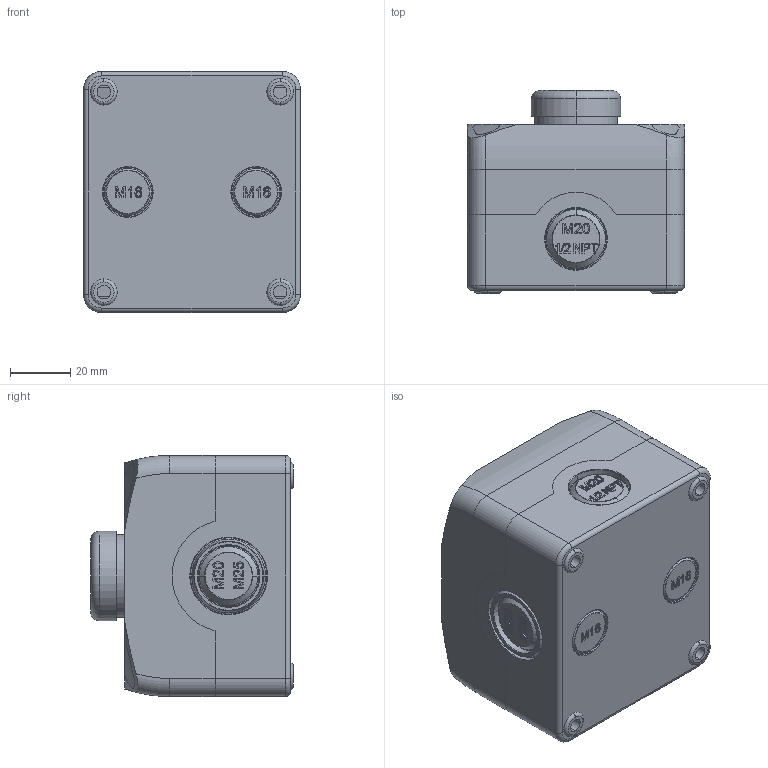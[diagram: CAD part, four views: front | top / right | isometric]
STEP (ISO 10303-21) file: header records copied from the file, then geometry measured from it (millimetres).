
FILE_DESCRIPTION (( 'STEP AP203' ), '1' );
FILE_NAME ('ZF_STEP_ES_AC31001_A11.STEP', '2011-12-12T09:44:45', ( 'Pizzato Elettrica' ), ( '' ), 'SwSTEP 2.0', 'SolidWorks 2011', '' );
FILE_SCHEMA (( 'CONFIG_CONTROL_DESIGN' ));
Length unit declared in the file: millimetre
Products named in the file (6): ZF_STEP_ES_AC31001_A11; Tappo D_24176; Tappo C_24175; ZF_STEP_E2_xPUxRx2xx_A10; 24171_3DWeb_24151; 24170_3DWeb_24150
Assembly tree (7 placements, depth 2):
  ZF_STEP_ES_AC31001_A11
    24170_3DWeb_24150
    ZF_STEP_E2_xPUxRx2xx_A10
    24171_3DWeb_24151
    Tappo D_24176  x2
    Tappo C_24175  x2
Bounding box: 72 x 67.3 x 80 mm (x, y, z)
Volume: 303564.9 mm3; surface area: 58488.7 mm2
Topology: 7 solids, 7 shells, 1007 faces, 2585 edges, 1687 vertices
Faces by surface type: plane 491, bspline 204, cylinder 168, torus 78, cone 56, sphere 10
Entity records: 38889 total; most frequent: CARTESIAN_POINT 17195, ORIENTED_EDGE 4642, DIRECTION 3814, EDGE_CURVE 2321, VERTEX_POINT 1515, VECTOR 1310, LINE 1310, AXIS2_PLACEMENT_3D 1252
